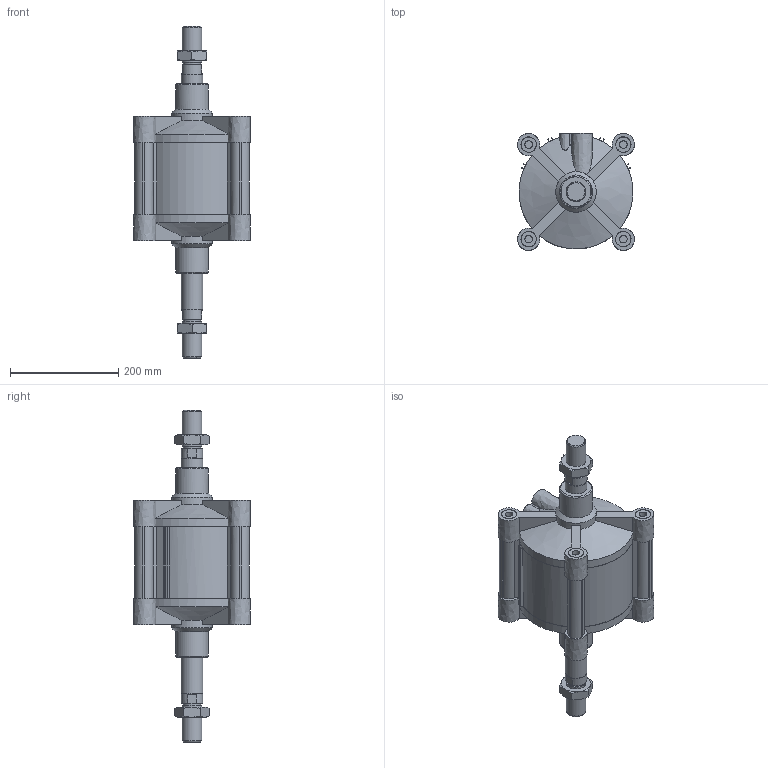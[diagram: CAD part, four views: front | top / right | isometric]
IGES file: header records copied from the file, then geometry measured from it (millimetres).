
Global section: file name: 139#_200_0050_02; native system: Autodesk Inventor 2014; preprocessor: unknown; author: F. Piloni; organization: Pneumax S.p.A.; date: 20151120.143149; units: millimetre
Bounding box: 216 x 216 x 614 mm (x, y, z)
Volume: 6866931.6 mm3; surface area: 791644 mm2
Topology: 6 solids, 6 shells, 324 faces, 844 edges, 567 vertices
Faces by surface type: bspline 324
